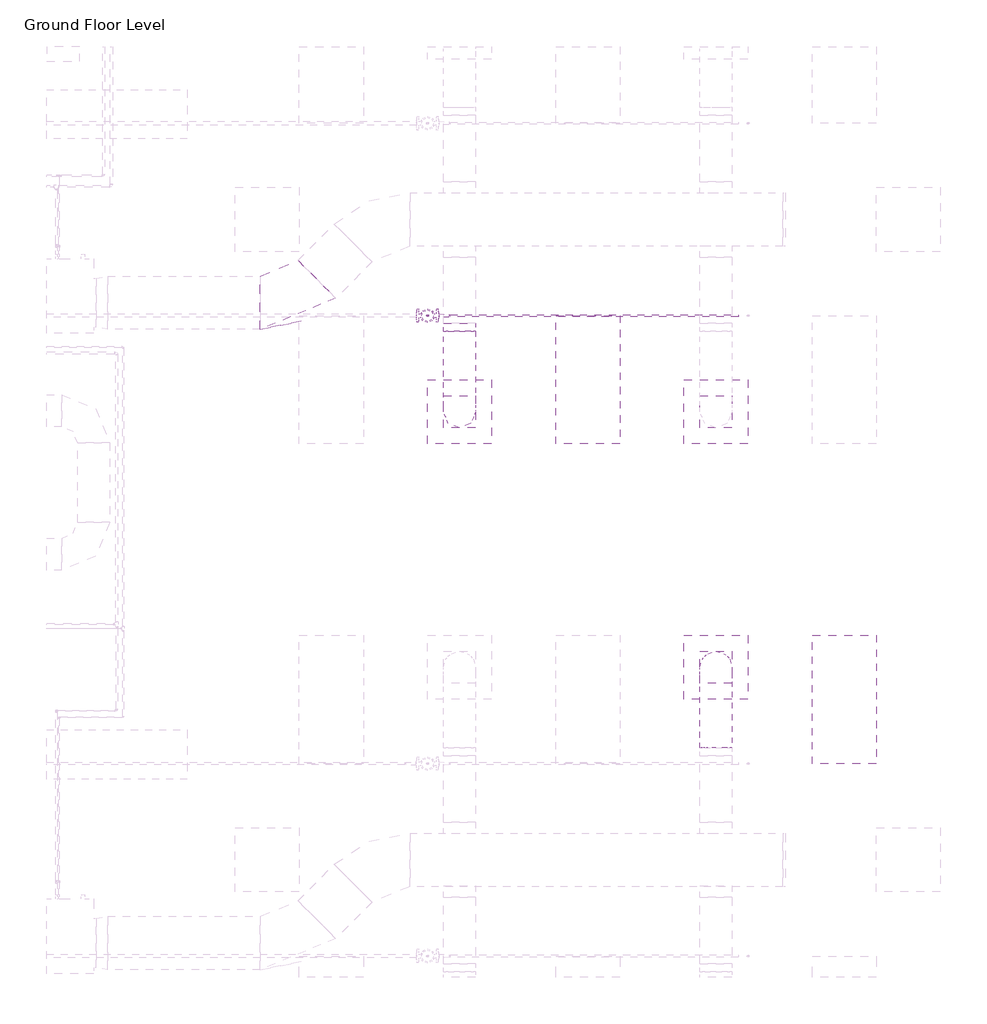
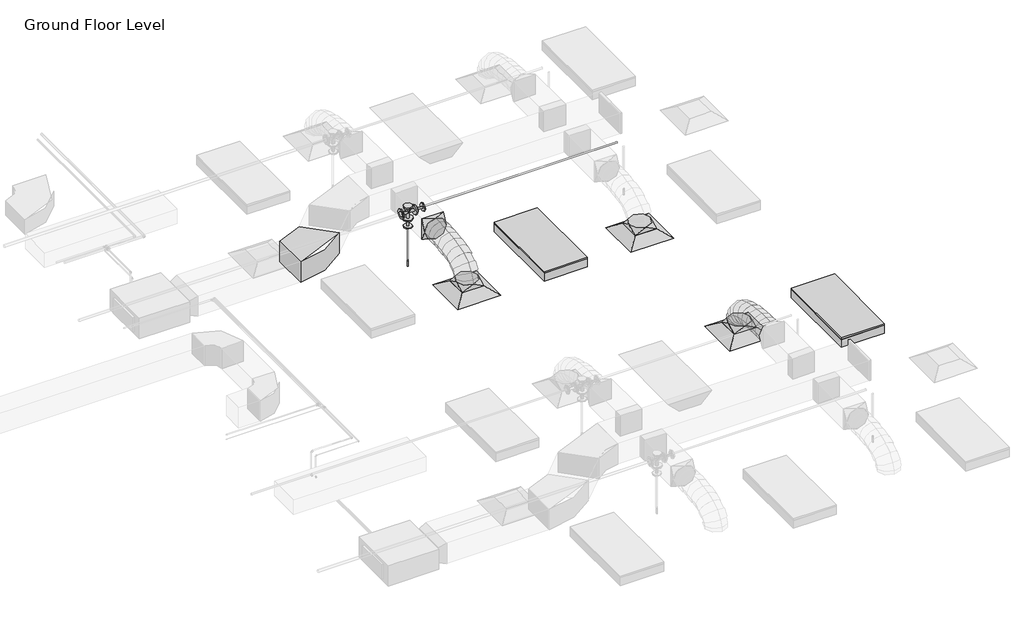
# One storey, part 38 of 74: 5 duct fittings, 3 air terminals, 3 pipe fittings, 2 duct segments, 2 light fixtures, 2 pipe segments, 1 fire suppression terminal.
"""IFC4 building model written with IfcOpenShell, lengths in millimetres."""

from ifc_helpers import new_model, si_unit, point, frame, frame_2d, origin, place, context, project, spatial, circle_curve, ellipse_curve, trimmed, segment, composite_curve, outline, extrude, transform, mapped, element, save
from ifc_brep_helpers import plane_surface, cylinder_surface, advanced_brep
from components import m_return_diffuser_600_x_600_face_300_x_300_connection_ff221211, m_rectangular_elbow_radius_1_5_w_acc56c25, m_rectangular_to_round_transition_angle_45_degree_641efff0, m_sprinkler_dry_pendent_hosted_15_mm_dry_pendent_9bda8e11, m_troffer_light_parabolic_rectangular1_0600x1200mm_4_lamp_86473d4a, m_reducer_flanged_cs_class_150_standard_ccf252ad, m_tee_round_base_flanged_cs_class_150_standard_7e5987a1

model = new_model("IFC4")

# Units and contexts
model_context = context("Model", 3, world=origin())
ifc_project = project(units=[si_unit("LENGTHUNIT", "METRE", prefix="MILLI")], contexts=[model_context])

# Site, building, storey
site = spatial("IfcSite", under=ifc_project)
building = spatial("IfcBuilding", under=site)
storey = spatial("IfcBuildingStorey", under=building, Name="Ground Floor Level", Elevation=900.0)

# Air terminals
placement = place(None, origin())
m_return_diffuser_600_x_600_face_300_x_300_connection_shape = m_return_diffuser_600_x_600_face_300_x_300_connection_ff221211(model_context)
element("IfcAirTerminal", 1, ObjectType="M_Supply Diffuser : 600 x 600 Face 300 x 300 Connection", at=placement, inside=storey, context=model_context, shape_type="MappedRepresentation", body=[
    mapped(m_return_diffuser_600_x_600_face_300_x_300_connection_shape, transform((10742.7672395, -1074.7846466, 3650.0), x_axis=(1.0, 0.0, 0.0), y_axis=(0.0, 1.0, 0.0), z_axis=(0.0, 0.0, 1.0))),
])
element("IfcAirTerminal", 2, ObjectType="M_Supply Diffuser : 600 x 600 Face 300 x 300 Connection", at=placement, inside=storey, context=model_context, shape_type="MappedRepresentation", body=[
    mapped(m_return_diffuser_600_x_600_face_300_x_300_connection_shape, transform((13142.7672395, -1074.7846466, 3650.0), x_axis=(1.0, 0.0, 0.0), y_axis=(0.0, 1.0, 0.0), z_axis=(0.0, 0.0, 1.0))),
])
element("IfcAirTerminal", 3, ObjectType="M_Supply Diffuser : 600 x 600 Face 300 x 300 Connection", at=placement, inside=storey, context=model_context, shape_type="MappedRepresentation", body=[
    mapped(m_return_diffuser_600_x_600_face_300_x_300_connection_shape, transform((13142.7672395, -3464.7846466, 3650.0), x_axis=(1.0, 0.0, 0.0), y_axis=(0.0, 1.0, 0.0), z_axis=(0.0, 0.0, 1.0))),
])

# Duct fittings
m_rectangular_elbow_radius_1_5_w_shape = m_rectangular_elbow_radius_1_5_w_acc56c25(model_context)
element("IfcDuctFitting", 4, ObjectType="M_Rectangular Elbow - Radius : 1.5 W", at=placement, inside=storey, context=model_context, shape_type="MappedRepresentation", body=[
    mapped(m_rectangular_elbow_radius_1_5_w_shape, transform((9187.6927358, -53.8220473, 4100.0047224), x_axis=(0.9999999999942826, 0.0, -3.3815582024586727e-06), y_axis=(-9.063610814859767e-12, 0.9999999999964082, -2.680306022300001e-06), z_axis=(3.3815582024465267e-06, 2.6803060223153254e-06, 0.9999999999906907))),
])
m_rectangular_to_round_transition_angle_45_degree_shape = m_rectangular_to_round_transition_angle_45_degree_641efff0(model_context)
element("IfcDuctFitting", 5, ObjectType="M_Rectangular to Round Transition - Angle : 45 Degree", at=placement, inside=storey, context=model_context, shape_type="MappedRepresentation", body=[
    mapped(m_rectangular_to_round_transition_angle_45_degree_shape, transform((13142.7672395, -3464.7846466, 3751.6), x_axis=(0.0, 0.0, 1.0), y_axis=(-1.0, 0.0, 0.0), z_axis=(0.0, -1.0, 0.0))),
])
element("IfcDuctFitting", 6, ObjectType="M_Rectangular to Round Transition - Angle : 45 Degree", at=placement, inside=storey, context=model_context, shape_type="MappedRepresentation", body=[
    mapped(m_rectangular_to_round_transition_angle_45_degree_shape, transform((10742.7672395, -1074.7846466, 3751.6), x_axis=(0.0, 0.0, 1.0), y_axis=(-1.0, 0.0, 0.0), z_axis=(0.0, -1.0, 0.0))),
])
element("IfcDuctFitting", 7, ObjectType="M_Rectangular to Round Transition - Angle : 45 Degree", at=placement, inside=storey, context=model_context, shape_type="MappedRepresentation", body=[
    mapped(m_rectangular_to_round_transition_angle_45_degree_shape, transform((10742.7672395, -247.4487153, 4100.0), x_axis=(0.0, -1.0, 0.0), y_axis=(1.0, 0.0, 0.0), z_axis=(0.0, 0.0, 1.0))),
])
element("IfcDuctFitting", 8, ObjectType="M_Rectangular to Round Transition - Angle : 45 Degree", at=placement, inside=storey, context=model_context, shape_type="MappedRepresentation", body=[
    mapped(m_rectangular_to_round_transition_angle_45_degree_shape, transform((13142.7672395, -1074.7846466, 3751.6), x_axis=(0.0, 0.0, 1.0), y_axis=(-1.0, 0.0, 0.0), z_axis=(0.0, -1.0, 0.0))),
])

# Duct segments
element("IfcDuctSegment", 9, ObjectType="Flex - Round", at=placement, inside=storey, context=model_context, shape_type="AdvancedBrep", body=[
    advanced_brep(
    [(13292.7672395, -3464.7846466, 3826.6), (13142.7672395, -3614.7846466, 3826.6), (12992.7672395, -3464.7846466, 3826.6), (13142.7672395, -3314.7846466, 3826.6), (13292.7672395, -3464.7846466, 3857.9377114), (13142.7672395, -3614.7846466, 3832.2944892), (12992.7672395, -3464.7846466, 3857.9377114), (13142.7672395, -3314.7846466, 3883.5809337), (13292.7672395, -3481.8005792, 3906.2505728), (13142.7672395, -3615.5385581, 3834.435049), (12992.7672395, -3481.8005792, 3906.2505728), (13142.7672395, -3348.0626002, 3978.0660967), (13292.7672395, -3528.9844595, 3968.7113131), (13142.7672395, -3633.1903588, 3857.8020236), (12992.7672395, -3528.9844595, 3968.7113131), (13142.7672395, -3424.7785603, 4079.6206026), (13292.7672395, -3600.5404117, 4016.0700639), (13142.7672395, -3669.4744673, 3881.8163788), (12992.7672395, -3600.5404117, 4016.0700639), (13142.7672395, -3531.606356, 4150.3237489), (13292.7672395, -3690.6725597, 4050.4146682), (13142.7672395, -3734.2333228, 3906.4925606), (12992.7672395, -3690.6725597, 4050.4146682), (13142.7672395, -3647.1117965, 4194.3367758), (13292.7672395, -3793.5850275, 4073.8329691), (13142.7672395, -3820.1459515, 3926.0424542), (12992.7672395, -3793.5850275, 4073.8329691), (13142.7672395, -3767.0241035, 4221.6234841), (13292.7672395, -3903.4819392, 4088.4128097), (13142.7672395, -3918.6328416, 3939.1085462), (12992.7672395, -3903.4819392, 4088.4128097), (13142.7672395, -3888.3310369, 4237.7170733), (13292.7672395, -4014.5674189, 4096.242033), (13142.7672395, -4022.0727471, 3946.398915), (12992.7672395, -4014.5674189, 4096.242033), (13142.7672395, -4007.0620907, 4246.085151), (13292.7672395, -4121.0455904, 4099.4084821), (13142.7672395, -4123.7370835, 3949.4222102), (12992.7672395, -4121.0455904, 4099.4084821), (13142.7672395, -4118.3540973, 4249.394754), (13292.7672395, -4217.1205779, 4100.0), (13142.7672395, -4216.1970701, 4249.9971571), (12992.7672395, -4217.1205779, 4100.0), (13142.7672395, -4218.0440857, 3950.0028429)],
    [
        (0, 1, circle_curve(frame((13142.7672395, -3464.7846466, 3826.6), z_axis=(0.0, 0.0, -1.0), x_axis=(1.0, 0.0, 0.0)), 150.0)),
        (1, 2, circle_curve(frame((13142.7672395, -3464.7846466, 3826.6), z_axis=(0.0, 0.0, -1.0), x_axis=(1.0, 0.0, 0.0)), 150.0)),
        (2, 3, circle_curve(frame((13142.7672395, -3464.7846466, 3826.6), z_axis=(0.0, 0.0, -1.0), x_axis=(1.0, 0.0, 0.0)), 150.0)),
        (3, 0, circle_curve(frame((13142.7672395, -3464.7846466, 3826.6), z_axis=(0.0, 0.0, -1.0), x_axis=(1.0, 0.0, 0.0)), 150.0)),
        (0, 4),
        (4, 5, ellipse_curve(frame((13142.7672395, -3464.7846466, 3857.9377114), z_axis=(0.0, 0.16851014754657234, -0.9856999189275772), x_axis=(0.0, -0.9856999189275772, -0.1685101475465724)), 152.176131, 150.0)),
        (5, 1),
        (5, 6, ellipse_curve(frame((13142.7672395, -3464.7846466, 3857.9377114), z_axis=(0.0, 0.16851014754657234, -0.9856999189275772), x_axis=(0.0, -0.9856999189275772, -0.1685101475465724)), 152.176131, 150.0)),
        (6, 2),
        (6, 7, ellipse_curve(frame((13142.7672395, -3464.7846466, 3857.9377114), z_axis=(0.0, 0.16851014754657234, -0.9856999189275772), x_axis=(0.0, -0.9856999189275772, -0.1685101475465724)), 152.176131, 150.0)),
        (7, 3),
        (7, 4, ellipse_curve(frame((13142.7672395, -3464.7846466, 3857.9377114), z_axis=(0.0, 0.16851014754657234, -0.9856999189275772), x_axis=(0.0, -0.9856999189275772, -0.1685101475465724)), 152.176131, 150.0)),
        (4, 8),
        (8, 9, ellipse_curve(frame((13142.7672395, -3481.8005792, 3906.2505728), z_axis=(0.0, 0.47309225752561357, -0.8810128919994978), x_axis=(0.0, -0.8810128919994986, -0.47309225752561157)), 151.8002519, 150.0)),
        (9, 5),
        (9, 10, ellipse_curve(frame((13142.7672395, -3481.8005792, 3906.2505728), z_axis=(0.0, 0.47309225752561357, -0.8810128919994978), x_axis=(0.0, -0.8810128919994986, -0.47309225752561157)), 151.8002519, 150.0)),
        (10, 6),
        (10, 11, ellipse_curve(frame((13142.7672395, -3481.8005792, 3906.2505728), z_axis=(0.0, 0.47309225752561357, -0.8810128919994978), x_axis=(0.0, -0.8810128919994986, -0.47309225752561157)), 151.8002519, 150.0)),
        (11, 7),
        (11, 8, ellipse_curve(frame((13142.7672395, -3481.8005792, 3906.2505728), z_axis=(0.0, 0.47309225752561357, -0.8810128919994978), x_axis=(0.0, -0.8810128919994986, -0.47309225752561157)), 151.8002519, 150.0)),
        (8, 12),
        (12, 13, ellipse_curve(frame((13142.7672395, -3528.9844595, 3968.7113131), z_axis=(0.0, 0.7287877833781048, -0.6847396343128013), x_axis=(0.0, -0.6847396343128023, -0.7287877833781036)), 152.1832446, 150.0)),
        (13, 9),
        (13, 14, ellipse_curve(frame((13142.7672395, -3528.9844595, 3968.7113131), z_axis=(0.0, 0.7287877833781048, -0.6847396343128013), x_axis=(0.0, -0.6847396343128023, -0.7287877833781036)), 152.1832446, 150.0)),
        (14, 10),
        (14, 15, ellipse_curve(frame((13142.7672395, -3528.9844595, 3968.7113131), z_axis=(0.0, 0.7287877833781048, -0.6847396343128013), x_axis=(0.0, -0.6847396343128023, -0.7287877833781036)), 152.1832446, 150.0)),
        (15, 11),
        (15, 12, ellipse_curve(frame((13142.7672395, -3528.9844595, 3968.7113131), z_axis=(0.0, 0.7287877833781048, -0.6847396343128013), x_axis=(0.0, -0.6847396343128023, -0.7287877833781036)), 152.1832446, 150.0)),
        (12, 16),
        (16, 17, ellipse_curve(frame((13142.7672395, -3600.5404117, 4016.0700639), z_axis=(0.0, 0.8895859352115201, -0.45676784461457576), x_axis=(0.0, -0.45676784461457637, -0.8895859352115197)), 150.91705, 150.0)),
        (17, 13),
        (17, 18, ellipse_curve(frame((13142.7672395, -3600.5404117, 4016.0700639), z_axis=(0.0, 0.8895859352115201, -0.45676784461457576), x_axis=(0.0, -0.45676784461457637, -0.8895859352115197)), 150.91705, 150.0)),
        (18, 14),
        (18, 19, ellipse_curve(frame((13142.7672395, -3600.5404117, 4016.0700639), z_axis=(0.0, 0.8895859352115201, -0.45676784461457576), x_axis=(0.0, -0.45676784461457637, -0.8895859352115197)), 150.91705, 150.0)),
        (19, 15),
        (19, 16, ellipse_curve(frame((13142.7672395, -3600.5404117, 4016.0700639), z_axis=(0.0, 0.8895859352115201, -0.45676784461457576), x_axis=(0.0, -0.45676784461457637, -0.8895859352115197)), 150.91705, 150.0)),
        (16, 20),
        (20, 21, ellipse_curve(frame((13142.7672395, -3690.6725597, 4050.4146682), z_axis=(0.0, 0.9571203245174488, -0.2896906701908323), x_axis=(0.0, -0.2896906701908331, -0.9571203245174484)), 150.369921, 150.0)),
        (21, 17),
        (21, 22, ellipse_curve(frame((13142.7672395, -3690.6725597, 4050.4146682), z_axis=(0.0, 0.9571203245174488, -0.2896906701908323), x_axis=(0.0, -0.2896906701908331, -0.9571203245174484)), 150.369921, 150.0)),
        (22, 18),
        (22, 23, ellipse_curve(frame((13142.7672395, -3690.6725597, 4050.4146682), z_axis=(0.0, 0.9571203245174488, -0.2896906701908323), x_axis=(0.0, -0.2896906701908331, -0.9571203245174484)), 150.369921, 150.0)),
        (23, 19),
        (23, 20, ellipse_curve(frame((13142.7672395, -3690.6725597, 4050.4146682), z_axis=(0.0, 0.9571203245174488, -0.2896906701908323), x_axis=(0.0, -0.2896906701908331, -0.9571203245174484)), 150.369921, 150.0)),
        (20, 24),
        (24, 25, ellipse_curve(frame((13142.7672395, -3793.5850275, 4073.8329691), z_axis=(0.0, 0.9842313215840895, -0.17688613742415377), x_axis=(0.0, -0.17688613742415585, -0.9842313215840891)), 150.1583131, 150.0)),
        (25, 21),
        (25, 26, ellipse_curve(frame((13142.7672395, -3793.5850275, 4073.8329691), z_axis=(0.0, 0.9842313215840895, -0.17688613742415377), x_axis=(0.0, -0.17688613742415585, -0.9842313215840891)), 150.1583131, 150.0)),
        (26, 22),
        (26, 27, ellipse_curve(frame((13142.7672395, -3793.5850275, 4073.8329691), z_axis=(0.0, 0.9842313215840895, -0.17688613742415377), x_axis=(0.0, -0.17688613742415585, -0.9842313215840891)), 150.1583131, 150.0)),
        (27, 23),
        (27, 24, ellipse_curve(frame((13142.7672395, -3793.5850275, 4073.8329691), z_axis=(0.0, 0.9842313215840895, -0.17688613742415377), x_axis=(0.0, -0.17688613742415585, -0.9842313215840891)), 150.1583131, 150.0)),
        (24, 28),
        (28, 29, ellipse_curve(frame((13142.7672395, -3903.4819392, 4088.4128097), z_axis=(0.0, 0.9948906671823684, -0.10095821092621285), x_axis=(0.0, -0.10095821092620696, -0.9948906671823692)), 150.0710264, 150.0)),
        (29, 25),
        (29, 30, ellipse_curve(frame((13142.7672395, -3903.4819392, 4088.4128097), z_axis=(0.0, 0.9948906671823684, -0.10095821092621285), x_axis=(0.0, -0.10095821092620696, -0.9948906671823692)), 150.0710264, 150.0)),
        (30, 26),
        (30, 31, ellipse_curve(frame((13142.7672395, -3903.4819392, 4088.4128097), z_axis=(0.0, 0.9948906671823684, -0.10095821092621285), x_axis=(0.0, -0.10095821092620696, -0.9948906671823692)), 150.0710264, 150.0)),
        (31, 27),
        (31, 28, ellipse_curve(frame((13142.7672395, -3903.4819392, 4088.4128097), z_axis=(0.0, 0.9948906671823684, -0.10095821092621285), x_axis=(0.0, -0.10095821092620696, -0.9948906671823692)), 150.0710264, 150.0)),
        (28, 32),
        (32, 33, ellipse_curve(frame((13142.7672395, -4014.5674189, 4096.242033), z_axis=(0.0, 0.9987479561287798, -0.05002519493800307), x_axis=(0.0, -0.050025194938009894, -0.9987479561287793)), 150.0309634, 150.0)),
        (33, 29),
        (33, 34, ellipse_curve(frame((13142.7672395, -4014.5674189, 4096.242033), z_axis=(0.0, 0.9987479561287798, -0.05002519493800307), x_axis=(0.0, -0.050025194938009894, -0.9987479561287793)), 150.0309634, 150.0)),
        (34, 30),
        (34, 35, ellipse_curve(frame((13142.7672395, -4014.5674189, 4096.242033), z_axis=(0.0, 0.9987479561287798, -0.05002519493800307), x_axis=(0.0, -0.050025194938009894, -0.9987479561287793)), 150.0309634, 150.0)),
        (35, 31),
        (35, 32, ellipse_curve(frame((13142.7672395, -4014.5674189, 4096.242033), z_axis=(0.0, 0.9987479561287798, -0.05002519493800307), x_axis=(0.0, -0.050025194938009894, -0.9987479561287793)), 150.0309634, 150.0)),
        (32, 36),
        (36, 37, ellipse_curve(frame((13142.7672395, -4121.0455904, 4099.4084821), z_axis=(0.0, 0.9998390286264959, -0.017942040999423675), x_axis=(-1.8187895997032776e-12, -0.017942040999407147, -0.9998390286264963)), 150.0104193, 150.0)),
        (37, 33),
        (37, 38, ellipse_curve(frame((13142.7672395, -4121.0455904, 4099.4084821), z_axis=(0.0, 0.9998390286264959, -0.017942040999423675), x_axis=(-1.8187895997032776e-12, -0.017942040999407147, -0.9998390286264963)), 150.0104193, 150.0)),
        (38, 34),
        (38, 39, ellipse_curve(frame((13142.7672395, -4121.0455904, 4099.4084821), z_axis=(0.0, 0.9998390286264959, -0.017942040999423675), x_axis=(-1.8187895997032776e-12, -0.017942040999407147, -0.9998390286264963)), 150.0104193, 150.0)),
        (39, 35),
        (39, 36, ellipse_curve(frame((13142.7672395, -4121.0455904, 4099.4084821), z_axis=(0.0, 0.9998390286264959, -0.017942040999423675), x_axis=(-1.8187895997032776e-12, -0.017942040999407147, -0.9998390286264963)), 150.0104193, 150.0)),
        (40, 41, circle_curve(frame((13142.7672395, -4217.1205779, 4100.0), z_axis=(0.0, -0.9999810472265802, 0.006156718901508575), x_axis=(1.0, 0.0, 0.0)), 150.0)),
        (41, 42, circle_curve(frame((13142.7672395, -4217.1205779, 4100.0), z_axis=(0.0, -0.9999810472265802, 0.006156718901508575), x_axis=(1.0, 0.0, 0.0)), 150.0)),
        (42, 43, circle_curve(frame((13142.7672395, -4217.1205779, 4100.0), z_axis=(0.0, -0.9999810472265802, 0.006156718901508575), x_axis=(1.0, 0.0, 0.0)), 150.0)),
        (43, 40, circle_curve(frame((13142.7672395, -4217.1205779, 4100.0), z_axis=(0.0, -0.9999810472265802, 0.006156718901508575), x_axis=(1.0, 0.0, 0.0)), 150.0)),
        (36, 40),
        (43, 37),
        (42, 38),
        (41, 39),
    ],
    [
        plane_surface(frame((13142.7672395, -3614.7846466, 3826.6), z_axis=(0.0, 0.0, -1.0), x_axis=(1.0, 0.0, 0.0))),
        cylinder_surface(frame((13142.7672395, -3464.7846466, 3826.6), z_axis=(0.0, 0.0, -1.0), x_axis=(1.0, 0.0, 0.0)), 150.0),
        cylinder_surface(frame((13142.7672395, -3464.7846466, 3857.9377114), z_axis=(0.0, 0.3322008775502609, -0.9432086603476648), x_axis=(1.0, 0.0, 0.0)), 150.0),
        cylinder_surface(frame((13142.7672395, -3481.8005792, 3906.2505728), z_axis=(0.0, 0.6027625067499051, -0.7979206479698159), x_axis=(1.0, 0.0, 0.0)), 150.0),
        cylinder_surface(frame((13142.7672395, -3528.9844595, 3968.7113131), z_axis=(0.0, 0.833902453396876, -0.5519118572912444), x_axis=(1.0, 0.0, 0.0)), 150.0),
        cylinder_surface(frame((13142.7672395, -3600.5404117, 4016.0700639), z_axis=(0.0, 0.9344582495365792, -0.35607271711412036), x_axis=(1.0, 0.0, 0.0)), 150.0),
        cylinder_surface(frame((13142.7672395, -3690.6725597, 4050.4146682), z_axis=(0.0, 0.9750732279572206, -0.22188330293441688), x_axis=(1.0, 0.0, 0.0)), 150.0),
        cylinder_surface(frame((13142.7672395, -3793.5850275, 4073.8329691), z_axis=(0.0, 0.9913140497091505, -0.1315159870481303), x_axis=(1.0, 0.0, 0.0)), 150.0),
        cylinder_surface(frame((13142.7672395, -3903.4819392, 4088.4128097), z_axis=(0.0, 0.9975255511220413, -0.070304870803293), x_axis=(1.0, 0.0, 0.0)), 150.0),
        cylinder_surface(frame((13142.7672395, -4014.5674189, 4096.242033), z_axis=(0.0, 0.9995581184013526, -0.02972487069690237), x_axis=(1.0, 0.0, 0.0)), 150.0),
        plane_surface(frame((13142.7672395, -4218.0440857, 3950.0028429), z_axis=(0.0, -0.9999810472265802, 0.006156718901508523), x_axis=(1.0, 0.0, 0.0))),
        cylinder_surface(frame((13142.7672395, -4121.0455904, 4099.4084821), z_axis=(0.0, 0.9999810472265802, -0.006156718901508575), x_axis=(1.0, 0.0, 0.0)), 150.0),
    ],
    [
        (0, [[1, 2, 3, 4]]),
        (1, [[-1, 5, 6, 7]]),
        (1, [[-2, -7, 8, 9]]),
        (1, [[-3, -9, 10, 11]]),
        (1, [[-4, -11, 12, -5]]),
        (2, [[-6, 13, 14, 15]]),
        (2, [[-8, -15, 16, 17]]),
        (2, [[-10, -17, 18, 19]]),
        (2, [[-12, -19, 20, -13]]),
        (3, [[-14, 21, 22, 23]]),
        (3, [[-16, -23, 24, 25]]),
        (3, [[-18, -25, 26, 27]]),
        (3, [[-20, -27, 28, -21]]),
        (4, [[-22, 29, 30, 31]]),
        (4, [[-24, -31, 32, 33]]),
        (4, [[-26, -33, 34, 35]]),
        (4, [[-28, -35, 36, -29]]),
        (5, [[-30, 37, 38, 39]]),
        (5, [[-32, -39, 40, 41]]),
        (5, [[-34, -41, 42, 43]]),
        (5, [[-36, -43, 44, -37]]),
        (6, [[-38, 45, 46, 47]]),
        (6, [[-40, -47, 48, 49]]),
        (6, [[-42, -49, 50, 51]]),
        (6, [[-44, -51, 52, -45]]),
        (7, [[-46, 53, 54, 55]]),
        (7, [[-48, -55, 56, 57]]),
        (7, [[-50, -57, 58, 59]]),
        (7, [[-52, -59, 60, -53]]),
        (8, [[-54, 61, 62, 63]]),
        (8, [[-56, -63, 64, 65]]),
        (8, [[-58, -65, 66, 67]]),
        (8, [[-60, -67, 68, -61]]),
        (9, [[-62, 69, 70, 71]]),
        (9, [[-64, -71, 72, 73]]),
        (9, [[-66, -73, 74, 75]]),
        (9, [[-68, -75, 76, -69]]),
        (10, [[77, 78, 79, 80]]),
        (11, [[-70, 81, -80, 82]]),
        (11, [[-72, -82, -79, 83]]),
        (11, [[-74, -83, -78, 84]]),
        (11, [[-76, -84, -77, -81]]),
    ],
),
])
element("IfcDuctSegment", 10, ObjectType="Flex - Round", at=placement, inside=storey, context=model_context, shape_type="AdvancedBrep", body=[
    advanced_brep(
    [(10892.7672395, -1074.7846466, 3826.6), (10742.7672395, -1224.7846466, 3826.6), (10592.7672395, -1074.7846466, 3826.6), (10742.7672395, -924.7846466, 3826.6), (10892.7672395, -1074.7846466, 3857.9377114), (10742.7672395, -1224.7846466, 3883.5809337), (10592.7672395, -1074.7846466, 3857.9377114), (10742.7672395, -924.7846466, 3832.2944892), (10892.7672395, -1057.7687141, 3906.2505728), (10742.7672395, -1191.506693, 3978.0660967), (10592.7672395, -1057.7687141, 3906.2505728), (10742.7672395, -924.0307351, 3834.435049), (10892.7672395, -1010.5848337, 3968.7113131), (10742.7672395, -1114.790733, 4079.6206026), (10592.7672395, -1010.5848337, 3968.7113131), (10742.7672395, -906.3789345, 3857.8020236), (10892.7672395, -939.0288816, 4016.0700639), (10742.7672395, -1007.9629372, 4150.3237489), (10592.7672395, -939.0288816, 4016.0700639), (10742.7672395, -870.0948259, 3881.8163788), (10892.7672395, -848.8967336, 4050.4146682), (10742.7672395, -892.4574967, 4194.3367758), (10592.7672395, -848.8967336, 4050.4146682), (10742.7672395, -805.3359704, 3906.4925606), (10892.7672395, -745.9842657, 4073.8329691), (10742.7672395, -772.5451897, 4221.6234841), (10592.7672395, -745.9842657, 4073.8329691), (10742.7672395, -719.4233417, 3926.0424542), (10892.7672395, -636.087354, 4088.4128097), (10742.7672395, -651.2382563, 4237.7170733), (10592.7672395, -636.087354, 4088.4128097), (10742.7672395, -620.9364516, 3939.1085462), (10892.7672395, -525.0018744, 4096.242033), (10742.7672395, -532.5072025, 4246.085151), (10592.7672395, -525.0018744, 4096.242033), (10742.7672395, -517.4965462, 3946.398915), (10892.7672395, -418.5237028, 4099.4084821), (10742.7672395, -421.2151959, 4249.394754), (10592.7672395, -418.5237028, 4099.4084821), (10742.7672395, -415.8322097, 3949.4222102), (10892.7672395, -322.4487153, 4100.0), (10742.7672395, -321.5252075, 3950.0028429), (10592.7672395, -322.4487153, 4100.0), (10742.7672395, -323.3722232, 4249.9971571)],
    [
        (0, 1, circle_curve(frame((10742.7672395, -1074.7846466, 3826.6), z_axis=(0.0, 0.0, -1.0), x_axis=(1.0, 0.0, 0.0)), 150.0)),
        (1, 2, circle_curve(frame((10742.7672395, -1074.7846466, 3826.6), z_axis=(0.0, 0.0, -1.0), x_axis=(1.0, 0.0, 0.0)), 150.0)),
        (2, 3, circle_curve(frame((10742.7672395, -1074.7846466, 3826.6), z_axis=(0.0, 0.0, -1.0), x_axis=(1.0, 0.0, 0.0)), 150.0)),
        (3, 0, circle_curve(frame((10742.7672395, -1074.7846466, 3826.6), z_axis=(0.0, 0.0, -1.0), x_axis=(1.0, 0.0, 0.0)), 150.0)),
        (0, 4),
        (4, 5, ellipse_curve(frame((10742.7672395, -1074.7846466, 3857.9377114), z_axis=(0.0, -0.16851014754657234, -0.9856999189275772), x_axis=(0.0, 0.9856999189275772, -0.1685101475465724)), 152.176131, 150.0)),
        (5, 1),
        (5, 6, ellipse_curve(frame((10742.7672395, -1074.7846466, 3857.9377114), z_axis=(0.0, -0.16851014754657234, -0.9856999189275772), x_axis=(0.0, 0.9856999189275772, -0.1685101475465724)), 152.176131, 150.0)),
        (6, 2),
        (6, 7, ellipse_curve(frame((10742.7672395, -1074.7846466, 3857.9377114), z_axis=(0.0, -0.16851014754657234, -0.9856999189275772), x_axis=(0.0, 0.9856999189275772, -0.1685101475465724)), 152.176131, 150.0)),
        (7, 3),
        (7, 4, ellipse_curve(frame((10742.7672395, -1074.7846466, 3857.9377114), z_axis=(0.0, -0.16851014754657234, -0.9856999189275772), x_axis=(0.0, 0.9856999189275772, -0.1685101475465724)), 152.176131, 150.0)),
        (4, 8),
        (8, 9, ellipse_curve(frame((10742.7672395, -1057.7687141, 3906.2505728), z_axis=(0.0, -0.4730922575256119, -0.8810128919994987), x_axis=(0.0, 0.8810128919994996, -0.47309225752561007)), 151.8002519, 150.0)),
        (9, 5),
        (9, 10, ellipse_curve(frame((10742.7672395, -1057.7687141, 3906.2505728), z_axis=(0.0, -0.4730922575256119, -0.8810128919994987), x_axis=(0.0, 0.8810128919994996, -0.47309225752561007)), 151.8002519, 150.0)),
        (10, 6),
        (10, 11, ellipse_curve(frame((10742.7672395, -1057.7687141, 3906.2505728), z_axis=(0.0, -0.4730922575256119, -0.8810128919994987), x_axis=(0.0, 0.8810128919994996, -0.47309225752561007)), 151.8002519, 150.0)),
        (11, 7),
        (11, 8, ellipse_curve(frame((10742.7672395, -1057.7687141, 3906.2505728), z_axis=(0.0, -0.4730922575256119, -0.8810128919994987), x_axis=(0.0, 0.8810128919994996, -0.47309225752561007)), 151.8002519, 150.0)),
        (8, 12),
        (12, 13, ellipse_curve(frame((10742.7672395, -1010.5848337, 3968.7113131), z_axis=(0.0, -0.7287877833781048, -0.6847396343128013), x_axis=(0.0, 0.6847396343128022, -0.7287877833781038)), 152.1832446, 150.0)),
        (13, 9),
        (13, 14, ellipse_curve(frame((10742.7672395, -1010.5848337, 3968.7113131), z_axis=(0.0, -0.7287877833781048, -0.6847396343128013), x_axis=(0.0, 0.6847396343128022, -0.7287877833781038)), 152.1832446, 150.0)),
        (14, 10),
        (14, 15, ellipse_curve(frame((10742.7672395, -1010.5848337, 3968.7113131), z_axis=(0.0, -0.7287877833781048, -0.6847396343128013), x_axis=(0.0, 0.6847396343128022, -0.7287877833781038)), 152.1832446, 150.0)),
        (15, 11),
        (15, 12, ellipse_curve(frame((10742.7672395, -1010.5848337, 3968.7113131), z_axis=(0.0, -0.7287877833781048, -0.6847396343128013), x_axis=(0.0, 0.6847396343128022, -0.7287877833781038)), 152.1832446, 150.0)),
        (12, 16),
        (16, 17, ellipse_curve(frame((10742.7672395, -939.0288816, 4016.0700639), z_axis=(0.0, -0.8895859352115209, -0.45676784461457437), x_axis=(0.0, 0.4567678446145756, -0.8895859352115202)), 150.91705, 150.0)),
        (17, 13),
        (17, 18, ellipse_curve(frame((10742.7672395, -939.0288816, 4016.0700639), z_axis=(0.0, -0.8895859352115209, -0.45676784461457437), x_axis=(0.0, 0.4567678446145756, -0.8895859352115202)), 150.91705, 150.0)),
        (18, 14),
        (18, 19, ellipse_curve(frame((10742.7672395, -939.0288816, 4016.0700639), z_axis=(0.0, -0.8895859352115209, -0.45676784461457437), x_axis=(0.0, 0.4567678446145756, -0.8895859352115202)), 150.91705, 150.0)),
        (19, 15),
        (19, 16, ellipse_curve(frame((10742.7672395, -939.0288816, 4016.0700639), z_axis=(0.0, -0.8895859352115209, -0.45676784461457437), x_axis=(0.0, 0.4567678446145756, -0.8895859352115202)), 150.91705, 150.0)),
        (16, 20),
        (20, 21, ellipse_curve(frame((10742.7672395, -848.8967336, 4050.4146682), z_axis=(0.0, -0.9571203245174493, -0.28969067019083), x_axis=(0.0, 0.2896906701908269, -0.9571203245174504)), 150.369921, 150.0)),
        (21, 17),
        (21, 22, ellipse_curve(frame((10742.7672395, -848.8967336, 4050.4146682), z_axis=(0.0, -0.9571203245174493, -0.28969067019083), x_axis=(0.0, 0.2896906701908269, -0.9571203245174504)), 150.369921, 150.0)),
        (22, 18),
        (22, 23, ellipse_curve(frame((10742.7672395, -848.8967336, 4050.4146682), z_axis=(0.0, -0.9571203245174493, -0.28969067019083), x_axis=(0.0, 0.2896906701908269, -0.9571203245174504)), 150.369921, 150.0)),
        (23, 19),
        (23, 20, ellipse_curve(frame((10742.7672395, -848.8967336, 4050.4146682), z_axis=(0.0, -0.9571203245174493, -0.28969067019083), x_axis=(0.0, 0.2896906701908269, -0.9571203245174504)), 150.369921, 150.0)),
        (20, 24),
        (24, 25, ellipse_curve(frame((10742.7672395, -745.9842657, 4073.8329691), z_axis=(0.0, -0.9842313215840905, -0.17688613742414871), x_axis=(0.0, 0.17688613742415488, -0.9842313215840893)), 150.1583131, 150.0)),
        (25, 21),
        (25, 26, ellipse_curve(frame((10742.7672395, -745.9842657, 4073.8329691), z_axis=(0.0, -0.9842313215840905, -0.17688613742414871), x_axis=(0.0, 0.17688613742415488, -0.9842313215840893)), 150.1583131, 150.0)),
        (26, 22),
        (26, 27, ellipse_curve(frame((10742.7672395, -745.9842657, 4073.8329691), z_axis=(0.0, -0.9842313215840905, -0.17688613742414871), x_axis=(0.0, 0.17688613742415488, -0.9842313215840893)), 150.1583131, 150.0)),
        (27, 23),
        (27, 24, ellipse_curve(frame((10742.7672395, -745.9842657, 4073.8329691), z_axis=(0.0, -0.9842313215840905, -0.17688613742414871), x_axis=(0.0, 0.17688613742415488, -0.9842313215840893)), 150.1583131, 150.0)),
        (24, 28),
        (28, 29, ellipse_curve(frame((10742.7672395, -636.087354, 4088.4128097), z_axis=(0.0, -0.9948906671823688, -0.10095821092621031), x_axis=(0.0, 0.10095821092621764, -0.994890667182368)), 150.0710264, 150.0)),
        (29, 25),
        (29, 30, ellipse_curve(frame((10742.7672395, -636.087354, 4088.4128097), z_axis=(0.0, -0.9948906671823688, -0.10095821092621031), x_axis=(0.0, 0.10095821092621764, -0.994890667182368)), 150.0710264, 150.0)),
        (30, 26),
        (30, 31, ellipse_curve(frame((10742.7672395, -636.087354, 4088.4128097), z_axis=(0.0, -0.9948906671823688, -0.10095821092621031), x_axis=(0.0, 0.10095821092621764, -0.994890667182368)), 150.0710264, 150.0)),
        (31, 27),
        (31, 28, ellipse_curve(frame((10742.7672395, -636.087354, 4088.4128097), z_axis=(0.0, -0.9948906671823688, -0.10095821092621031), x_axis=(0.0, 0.10095821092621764, -0.994890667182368)), 150.0710264, 150.0)),
        (28, 32),
        (32, 33, ellipse_curve(frame((10742.7672395, -525.0018744, 4096.242033), z_axis=(0.0, -0.9987479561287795, -0.050025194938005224), x_axis=(0.0, 0.050025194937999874, -0.9987479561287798)), 150.0309634, 150.0)),
        (33, 29),
        (33, 34, ellipse_curve(frame((10742.7672395, -525.0018744, 4096.242033), z_axis=(0.0, -0.9987479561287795, -0.050025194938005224), x_axis=(0.0, 0.050025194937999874, -0.9987479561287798)), 150.0309634, 150.0)),
        (34, 30),
        (34, 35, ellipse_curve(frame((10742.7672395, -525.0018744, 4096.242033), z_axis=(0.0, -0.9987479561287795, -0.050025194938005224), x_axis=(0.0, 0.050025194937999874, -0.9987479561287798)), 150.0309634, 150.0)),
        (35, 31),
        (35, 32, ellipse_curve(frame((10742.7672395, -525.0018744, 4096.242033), z_axis=(0.0, -0.9987479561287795, -0.050025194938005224), x_axis=(0.0, 0.050025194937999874, -0.9987479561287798)), 150.0309634, 150.0)),
        (32, 36),
        (36, 37, ellipse_curve(frame((10742.7672395, -418.5237028, 4099.4084821), z_axis=(0.0, -0.9998390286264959, -0.017942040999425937), x_axis=(0.0, 0.017942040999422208, -0.999839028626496)), 150.0104193, 150.0)),
        (37, 33),
        (37, 38, ellipse_curve(frame((10742.7672395, -418.5237028, 4099.4084821), z_axis=(0.0, -0.9998390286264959, -0.017942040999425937), x_axis=(0.0, 0.017942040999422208, -0.999839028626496)), 150.0104193, 150.0)),
        (38, 34),
        (38, 39, ellipse_curve(frame((10742.7672395, -418.5237028, 4099.4084821), z_axis=(0.0, -0.9998390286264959, -0.017942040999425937), x_axis=(0.0, 0.017942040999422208, -0.999839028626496)), 150.0104193, 150.0)),
        (39, 35),
        (39, 36, ellipse_curve(frame((10742.7672395, -418.5237028, 4099.4084821), z_axis=(0.0, -0.9998390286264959, -0.017942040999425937), x_axis=(0.0, 0.017942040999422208, -0.999839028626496)), 150.0104193, 150.0)),
        (40, 41, circle_curve(frame((10742.7672395, -322.4487153, 4100.0), z_axis=(0.0, 0.9999810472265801, 0.006156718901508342), x_axis=(1.0, 0.0, 0.0)), 150.0)),
        (41, 42, circle_curve(frame((10742.7672395, -322.4487153, 4100.0), z_axis=(0.0, 0.9999810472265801, 0.006156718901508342), x_axis=(1.0, 0.0, 0.0)), 150.0)),
        (42, 43, circle_curve(frame((10742.7672395, -322.4487153, 4100.0), z_axis=(0.0, 0.9999810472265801, 0.006156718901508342), x_axis=(1.0, 0.0, 0.0)), 150.0)),
        (43, 40, circle_curve(frame((10742.7672395, -322.4487153, 4100.0), z_axis=(0.0, 0.9999810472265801, 0.006156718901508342), x_axis=(1.0, 0.0, 0.0)), 150.0)),
        (36, 40),
        (43, 37),
        (42, 38),
        (41, 39),
    ],
    [
        plane_surface(frame((10742.7672395, -1224.7846466, 3826.6), z_axis=(0.0, 0.0, -1.0), x_axis=(1.0, 0.0, 0.0))),
        cylinder_surface(frame((10742.7672395, -1074.7846466, 3826.6), z_axis=(0.0, 0.0, -1.0), x_axis=(1.0, 0.0, 0.0)), 150.0),
        cylinder_surface(frame((10742.7672395, -1074.7846466, 3857.9377114), z_axis=(0.0, -0.3322008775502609, -0.9432086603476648), x_axis=(1.0, 0.0, 0.0)), 150.0),
        cylinder_surface(frame((10742.7672395, -1057.7687141, 3906.2505728), z_axis=(0.0, -0.6027625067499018, -0.7979206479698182), x_axis=(1.0, 0.0, 0.0)), 150.0),
        cylinder_surface(frame((10742.7672395, -1010.5848337, 3968.7113131), z_axis=(0.0, -0.8339024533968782, -0.5519118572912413), x_axis=(1.0, 0.0, 0.0)), 150.0),
        cylinder_surface(frame((10742.7672395, -939.0288816, 4016.0700639), z_axis=(0.0, -0.934458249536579, -0.35607271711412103), x_axis=(1.0, 0.0, 0.0)), 150.0),
        cylinder_surface(frame((10742.7672395, -848.8967336, 4050.4146682), z_axis=(0.0, -0.9750732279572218, -0.22188330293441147), x_axis=(1.0, 0.0, 0.0)), 150.0),
        cylinder_surface(frame((10742.7672395, -745.9842657, 4073.8329691), z_axis=(0.0, -0.9913140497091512, -0.13151598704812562), x_axis=(1.0, 0.0, 0.0)), 150.0),
        cylinder_surface(frame((10742.7672395, -636.087354, 4088.4128097), z_axis=(0.0, -0.9975255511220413, -0.07030487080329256), x_axis=(1.0, 0.0, 0.0)), 150.0),
        cylinder_surface(frame((10742.7672395, -525.0018744, 4096.242033), z_axis=(0.0, -0.9995581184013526, -0.029724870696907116), x_axis=(1.0, 0.0, 0.0)), 150.0),
        plane_surface(frame((10742.7672395, -323.3722232, 4249.9971571), z_axis=(0.0, 0.9999810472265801, 0.006156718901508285), x_axis=(1.0, 0.0, 0.0))),
        cylinder_surface(frame((10742.7672395, -418.5237028, 4099.4084821), z_axis=(0.0, -0.9999810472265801, -0.006156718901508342), x_axis=(1.0, 0.0, 0.0)), 150.0),
    ],
    [
        (0, [[1, 2, 3, 4]]),
        (1, [[-1, 5, 6, 7]]),
        (1, [[-2, -7, 8, 9]]),
        (1, [[-3, -9, 10, 11]]),
        (1, [[-4, -11, 12, -5]]),
        (2, [[-6, 13, 14, 15]]),
        (2, [[-8, -15, 16, 17]]),
        (2, [[-10, -17, 18, 19]]),
        (2, [[-12, -19, 20, -13]]),
        (3, [[-14, 21, 22, 23]]),
        (3, [[-16, -23, 24, 25]]),
        (3, [[-18, -25, 26, 27]]),
        (3, [[-20, -27, 28, -21]]),
        (4, [[-22, 29, 30, 31]]),
        (4, [[-24, -31, 32, 33]]),
        (4, [[-26, -33, 34, 35]]),
        (4, [[-28, -35, 36, -29]]),
        (5, [[-30, 37, 38, 39]]),
        (5, [[-32, -39, 40, 41]]),
        (5, [[-34, -41, 42, 43]]),
        (5, [[-36, -43, 44, -37]]),
        (6, [[-38, 45, 46, 47]]),
        (6, [[-40, -47, 48, 49]]),
        (6, [[-42, -49, 50, 51]]),
        (6, [[-44, -51, 52, -45]]),
        (7, [[-46, 53, 54, 55]]),
        (7, [[-48, -55, 56, 57]]),
        (7, [[-50, -57, 58, 59]]),
        (7, [[-52, -59, 60, -53]]),
        (8, [[-54, 61, 62, 63]]),
        (8, [[-56, -63, 64, 65]]),
        (8, [[-58, -65, 66, 67]]),
        (8, [[-60, -67, 68, -61]]),
        (9, [[-62, 69, 70, 71]]),
        (9, [[-64, -71, 72, 73]]),
        (9, [[-66, -73, 74, 75]]),
        (9, [[-68, -75, 76, -69]]),
        (10, [[77, 78, 79, 80]]),
        (11, [[-70, 81, -80, 82]]),
        (11, [[-72, -82, -79, 83]]),
        (11, [[-74, -83, -78, 84]]),
        (11, [[-76, -84, -77, -81]]),
    ],
),
])

# Fire suppression terminal
m_sprinkler_dry_pendent_hosted_15_mm_dry_pendent_shape = m_sprinkler_dry_pendent_hosted_15_mm_dry_pendent_9bda8e11(model_context)
element("IfcFireSuppressionTerminal", 11, ObjectType="M_Sprinkler - Dry - Pendent - Hosted : 15 mm Dry Pendent", at=placement, inside=storey, context=model_context, shape_type="MappedRepresentation", body=[
    mapped(m_sprinkler_dry_pendent_hosted_15_mm_dry_pendent_shape, transform((10442.7672395, -174.7846466, 3650.0), x_axis=(1.0, 0.0, 0.0), y_axis=(0.0, -1.0, 0.0), z_axis=(0.0, 0.0, -1.0))),
])

# Light fixtures
m_troffer_light_parabolic_rectangular1_0600x1200mm_4_lamp_shape = m_troffer_light_parabolic_rectangular1_0600x1200mm_4_lamp_86473d4a(model_context)
element("IfcLightFixture", 12, ObjectType="M_Troffer Light - Parabolic Rectangular1 : 0600x1200mm(4 Lamp) - 277V 2", at=placement, inside=storey, context=model_context, shape_type="MappedRepresentation", body=[
    mapped(m_troffer_light_parabolic_rectangular1_0600x1200mm_4_lamp_shape, transform((11883.3013074, -756.081145, 3650.0), x_axis=(0.0, 1.0, 0.0), y_axis=(-1.0, 0.0, 0.0), z_axis=(0.0, 0.0, 1.0))),
])
element("IfcLightFixture", 13, ObjectType="M_Troffer Light - Parabolic Rectangular1 : 0600x1200mm(4 Lamp) - 277V 2", at=placement, inside=storey, context=model_context, shape_type="MappedRepresentation", body=[
    mapped(m_troffer_light_parabolic_rectangular1_0600x1200mm_4_lamp_shape, transform((14283.3013074, -3746.081145, 3650.0), x_axis=(0.0, 1.0, 0.0), y_axis=(-1.0, 0.0, 0.0), z_axis=(0.0, 0.0, 1.0))),
])

# Pipe fittings
m_reducer_flanged_cs_class_150_standard_shape = m_reducer_flanged_cs_class_150_standard_ccf252ad(model_context)
element("IfcPipeFitting", 14, ObjectType="M_Reducer - Flanged - CS - Class 150 : Standard", at=placement, inside=storey, context=model_context, shape_type="MappedRepresentation", body=[
    mapped(m_reducer_flanged_cs_class_150_standard_shape, transform((10543.4758332, -174.7846466, 4360.0), x_axis=(1.0, 0.0, 0.0), y_axis=(0.0, 0.0, 1.0), z_axis=(0.0, -1.0, 0.0))),
])
element("IfcPipeFitting", 15, ObjectType="M_Reducer - Flanged - CS - Class 150 : Standard", at=placement, inside=storey, context=model_context, shape_type="MappedRepresentation", body=[
    mapped(m_reducer_flanged_cs_class_150_standard_shape, transform((10442.7672395, -174.7846466, 4259.2914062), x_axis=(0.0, 0.0, -1.0), y_axis=(-1.0, 0.0, 0.0), z_axis=(0.0, 1.0, 0.0))),
])
m_tee_round_base_flanged_cs_class_150_standard_shape = m_tee_round_base_flanged_cs_class_150_standard_7e5987a1(model_context)
element("IfcPipeFitting", 16, ObjectType="M_Tee Round Base - Flanged - CS - Class 150 : Standard", at=placement, inside=storey, context=model_context, shape_type="MappedRepresentation", body=[
    mapped(m_tee_round_base_flanged_cs_class_150_standard_shape, transform((10442.7672395, -174.7846466, 4360.0), x_axis=(1.0, 0.0, 0.0), y_axis=(0.0, 0.0, 1.0), z_axis=(0.0, -1.0, 0.0))),
])

# Pipe segments
element("IfcPipeSegment", 17, ObjectType="Steel flanged", at=placement, inside=storey, context=model_context, shape_type="SweptSolid", body=[
    extrude(outline(composite_curve([segment(trimmed(circle_curve(frame_2d((10442.7672395, -174.7846466)), 10.668), [point((10432.0992395, -174.7846466))], [point((10442.7672395, -164.1166466))], False, "CARTESIAN"), True, "CONTINUOUS"), segment(trimmed(circle_curve(frame_2d((10442.7672395, -174.7846466)), 10.668), [point((10442.7672395, -164.1166466))], [point((10453.4352395, -174.7846466))], False, "CARTESIAN"), True, "CONTINUOUS"), segment(trimmed(circle_curve(frame_2d((10442.7672395, -174.7846466)), 10.668), [point((10453.4352395, -174.7846466))], [point((10442.7672395, -185.4526466))], False, "CARTESIAN"), True, "CONTINUOUS"), segment(trimmed(circle_curve(frame_2d((10442.7672395, -174.7846466)), 10.668), [point((10442.7672395, -185.4526466))], [point((10432.0992395, -174.7846466))], False, "CARTESIAN"), True, "CONTINUOUS")], self_intersect=False)), frame((0.0, 0.0, 3650.0), z_axis=(0.0, 0.0, 1.0), x_axis=(1.0, 0.0, 0.0)), (0.0, 0.0, 1.0), 495.2914062),
])
element("IfcPipeSegment", 18, ObjectType="Steel flanged", at=placement, inside=storey, context=model_context, shape_type="SweptSolid", body=[
    extrude(outline(composite_curve([segment(trimmed(circle_curve(frame_2d((-174.7846466, 4360.0)), 10.668), [point((-164.1166466, 4360.0))], [point((-174.7846466, 4349.332))], False, "CARTESIAN"), True, "CONTINUOUS"), segment(trimmed(circle_curve(frame_2d((-174.7846466, 4360.0)), 10.668), [point((-174.7846466, 4349.332))], [point((-185.4526466, 4360.0))], False, "CARTESIAN"), True, "CONTINUOUS"), segment(trimmed(circle_curve(frame_2d((-174.7846466, 4360.0)), 10.668), [point((-185.4526466, 4360.0))], [point((-174.7846466, 4370.668))], False, "CARTESIAN"), True, "CONTINUOUS"), segment(trimmed(circle_curve(frame_2d((-174.7846466, 4360.0)), 10.668), [point((-174.7846466, 4370.668))], [point((-164.1166466, 4360.0))], False, "CARTESIAN"), True, "CONTINUOUS")], self_intersect=False)), frame((10657.4758332, 0.0, 0.0), z_axis=(1.0, 0.0, 0.0), x_axis=(0.0, 1.0, 0.0)), (0.0, 0.0, 1.0), 2692.2828125),
])

save(model, "model.ifc")
